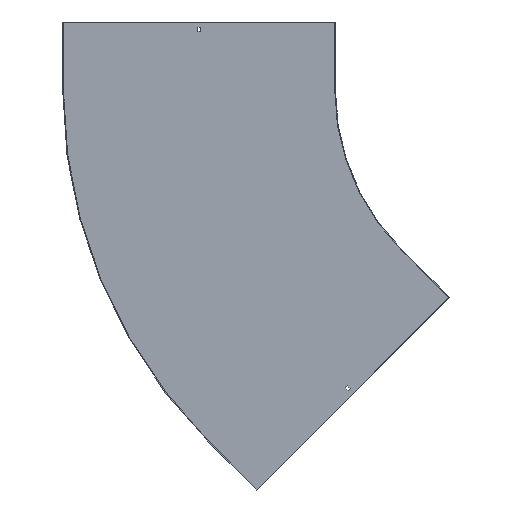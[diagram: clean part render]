
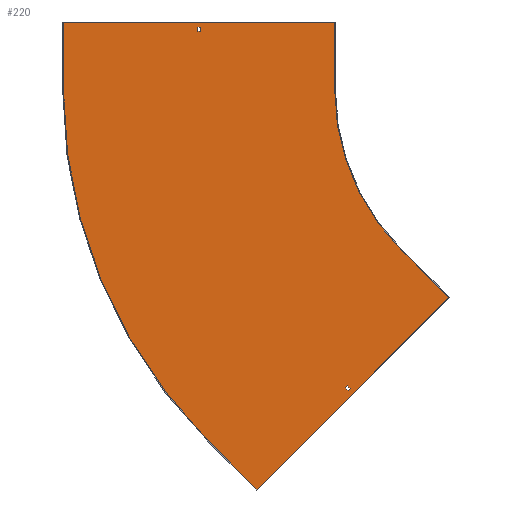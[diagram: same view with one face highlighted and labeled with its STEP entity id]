
A CAD part, front view. The second image highlights one B-rep face of the part: STEP entity #220.
In plain terms, the highlighted planar face has unit normal (0, -1, 0).
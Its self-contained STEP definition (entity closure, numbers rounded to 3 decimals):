
#9 = EDGE_LOOP ( 'NONE', ( #56, #224, #322, #115 ) ) ;
#17 = LINE ( 'NONE', #754, #211 ) ;
#23 = DIRECTION ( 'NONE',  ( 0.707, 0., -0.707 ) ) ;
#27 = DIRECTION ( 'NONE',  ( 0., 0., -1. ) ) ;
#40 = CARTESIAN_POINT ( 'NONE',  ( 0., -1.5, 129. ) ) ;
#43 = EDGE_LOOP ( 'NONE', ( #809, #674, #721, #840 ) ) ;
#50 = CARTESIAN_POINT ( 'NONE',  ( -470.403, -1.5, -665.564 ) ) ;
#56 = ORIENTED_EDGE ( 'NONE', *, *, #427, .F. ) ;
#61 = EDGE_CURVE ( 'NONE', #262, #748, #670, .T. ) ;
#62 = CARTESIAN_POINT ( 'NONE',  ( 0., -1.5, 0. ) ) ;
#66 = DIRECTION ( 'NONE',  ( -0.707, 0., -0.707 ) ) ;
#85 = VERTEX_POINT ( 'NONE', #416 ) ;
#95 = AXIS2_PLACEMENT_3D ( 'NONE', #171, #446, #690 ) ;
#109 = CARTESIAN_POINT ( 'NONE',  ( -777.817, -1.5, -777.817 ) ) ;
#115 = ORIENTED_EDGE ( 'NONE', *, *, #493, .F. ) ;
#128 = VECTOR ( 'NONE', #582, 1000. ) ;
#130 = CARTESIAN_POINT ( 'NONE',  ( -472.171, -1.5, -654.604 ) ) ;
#137 = EDGE_CURVE ( 'NONE', #494, #191, #703, .T. ) ;
#171 = CARTESIAN_POINT ( 'NONE',  ( 0., -1.5, 0. ) ) ;
#176 = CARTESIAN_POINT ( 'NONE',  ( 91.217, -1.5, -91.217 ) ) ;
#178 = EDGE_LOOP ( 'NONE', ( #683, #746, #474, #414, #386, #758, #500, #179 ) ) ;
#179 = ORIENTED_EDGE ( 'NONE', *, *, #788, .F. ) ;
#182 = VERTEX_POINT ( 'NONE', #730 ) ;
#185 = DIRECTION ( 'NONE',  ( 0., 0., -1. ) ) ;
#187 = VECTOR ( 'NONE', #573, 1000. ) ;
#191 = VERTEX_POINT ( 'NONE', #600 ) ;
#195 = CARTESIAN_POINT ( 'NONE',  ( -500., -1.5, 0. ) ) ;
#204 = PLANE ( 'NONE',  #598 ) ;
#210 = FACE_OUTER_BOUND ( 'NONE', #178, .T. ) ;
#211 = VECTOR ( 'NONE', #572, 1000. ) ;
#220 = ADVANCED_FACE ( 'NONE', ( #797, #210, #222 ), #204, .T. ) ;
#222 = FACE_BOUND ( 'NONE', #43, .T. ) ;
#224 = ORIENTED_EDGE ( 'NONE', *, *, #476, .F. ) ;
#229 = EDGE_CURVE ( 'NONE', #241, #182, #17, .T. ) ;
#241 = VERTEX_POINT ( 'NONE', #698 ) ;
#247 = LINE ( 'NONE', #761, #547 ) ;
#248 = VERTEX_POINT ( 'NONE', #384 ) ;
#253 = LINE ( 'NONE', #40, #187 ) ;
#262 = VERTEX_POINT ( 'NONE', #541 ) ;
#265 = DIRECTION ( 'NONE',  ( 0.707, 0., 0.707 ) ) ;
#275 = EDGE_CURVE ( 'NONE', #191, #658, #686, .T. ) ;
#290 = LINE ( 'NONE', #808, #828 ) ;
#297 = LINE ( 'NONE', #558, #793 ) ;
#318 = CARTESIAN_POINT ( 'NONE',  ( -803.25, -1.5, 129. ) ) ;
#322 = ORIENTED_EDGE ( 'NONE', *, *, #719, .F. ) ;
#323 = CARTESIAN_POINT ( 'NONE',  ( -500., -1.5, 150. ) ) ;
#326 = CARTESIAN_POINT ( 'NONE',  ( -803.25, -1.5, 0. ) ) ;
#333 = CARTESIAN_POINT ( 'NONE',  ( -796.75, -1.5, 0. ) ) ;
#335 = CARTESIAN_POINT ( 'NONE',  ( -796.75, -1.5, 129. ) ) ;
#336 = CIRCLE ( 'NONE', #803, 500. ) ;
#345 = VERTEX_POINT ( 'NONE', #335 ) ;
#369 = LINE ( 'NONE', #699, #514 ) ;
#378 = VECTOR ( 'NONE', #784, 1000. ) ;
#384 = CARTESIAN_POINT ( 'NONE',  ( -476.767, -1.5, -659.2 ) ) ;
#386 = ORIENTED_EDGE ( 'NONE', *, *, #648, .F. ) ;
#396 = VECTOR ( 'NONE', #477, 1000. ) ;
#401 = CARTESIAN_POINT ( 'NONE',  ( -465.807, -1.5, -660.968 ) ) ;
#407 = EDGE_CURVE ( 'NONE', #502, #241, #336, .T. ) ;
#409 = CARTESIAN_POINT ( 'NONE',  ( 0., -1.5, 0. ) ) ;
#414 = ORIENTED_EDGE ( 'NONE', *, *, #61, .F. ) ;
#416 = CARTESIAN_POINT ( 'NONE',  ( -1100., -1.5, 150. ) ) ;
#424 = CARTESIAN_POINT ( 'NONE',  ( 0., -1.5, 138. ) ) ;
#427 = EDGE_CURVE ( 'NONE', #497, #511, #247, .T. ) ;
#428 = CARTESIAN_POINT ( 'NONE',  ( -567.984, -1.5, -567.984 ) ) ;
#433 = EDGE_CURVE ( 'NONE', #345, #494, #253, .T. ) ;
#441 = DIRECTION ( 'NONE',  ( -0.707, 0., -0.707 ) ) ;
#444 = EDGE_CURVE ( 'NONE', #85, #509, #369, .T. ) ;
#446 = DIRECTION ( 'NONE',  ( 0., 1., 0. ) ) ;
#470 = DIRECTION ( 'NONE',  ( 0., -1., 0. ) ) ;
#472 = EDGE_CURVE ( 'NONE', #748, #611, #591, .T. ) ;
#474 = ORIENTED_EDGE ( 'NONE', *, *, #472, .F. ) ;
#476 = EDGE_CURVE ( 'NONE', #507, #497, #297, .T. ) ;
#477 = DIRECTION ( 'NONE',  ( -0.707, 0., 0.707 ) ) ;
#478 = LINE ( 'NONE', #727, #535 ) ;
#481 = CARTESIAN_POINT ( 'NONE',  ( -500., -1.5, 150. ) ) ;
#489 = LINE ( 'NONE', #428, #550 ) ;
#490 = DIRECTION ( 'NONE',  ( 0., 0., 1. ) ) ;
#493 = EDGE_CURVE ( 'NONE', #511, #248, #621, .T. ) ;
#494 = VERTEX_POINT ( 'NONE', #318 ) ;
#497 = VERTEX_POINT ( 'NONE', #401 ) ;
#500 = ORIENTED_EDGE ( 'NONE', *, *, #407, .F. ) ;
#502 = VERTEX_POINT ( 'NONE', #195 ) ;
#507 = VERTEX_POINT ( 'NONE', #50 ) ;
#508 = DIRECTION ( 'NONE',  ( 1., 0., 0. ) ) ;
#509 = VERTEX_POINT ( 'NONE', #323 ) ;
#511 = VERTEX_POINT ( 'NONE', #130 ) ;
#514 = VECTOR ( 'NONE', #508, 1000. ) ;
#521 = LINE ( 'NONE', #333, #378 ) ;
#526 = CARTESIAN_POINT ( 'NONE',  ( -1100., -1.5, 0. ) ) ;
#535 = VECTOR ( 'NONE', #66, 1000. ) ;
#541 = CARTESIAN_POINT ( 'NONE',  ( -671.751, -1.5, -883.883 ) ) ;
#547 = VECTOR ( 'NONE', #628, 1000. ) ;
#550 = VECTOR ( 'NONE', #23, 1000. ) ;
#558 = CARTESIAN_POINT ( 'NONE',  ( 97.581, -1.5, -97.581 ) ) ;
#569 = EDGE_CURVE ( 'NONE', #658, #345, #521, .T. ) ;
#572 = DIRECTION ( 'NONE',  ( 0.707, 0., -0.707 ) ) ;
#573 = DIRECTION ( 'NONE',  ( -1., 0., 0. ) ) ;
#581 = VECTOR ( 'NONE', #654, 1000. ) ;
#582 = DIRECTION ( 'NONE',  ( 0., 0., 1. ) ) ;
#591 = CIRCLE ( 'NONE', #95, 1100. ) ;
#598 = AXIS2_PLACEMENT_3D ( 'NONE', #409, #470, #185 ) ;
#600 = CARTESIAN_POINT ( 'NONE',  ( -803.25, -1.5, 138. ) ) ;
#607 = DIRECTION ( 'NONE',  ( 1., 0., 0. ) ) ;
#611 = VERTEX_POINT ( 'NONE', #526 ) ;
#621 = LINE ( 'NONE', #176, #695 ) ;
#628 = DIRECTION ( 'NONE',  ( -0.707, 0., 0.707 ) ) ;
#645 = DIRECTION ( 'NONE',  ( 0., -1., 0. ) ) ;
#648 = EDGE_CURVE ( 'NONE', #182, #262, #478, .T. ) ;
#654 = DIRECTION ( 'NONE',  ( 0., 0., -1. ) ) ;
#655 = CARTESIAN_POINT ( 'NONE',  ( -796.75, -1.5, 138. ) ) ;
#658 = VERTEX_POINT ( 'NONE', #655 ) ;
#670 = LINE ( 'NONE', #676, #396 ) ;
#674 = ORIENTED_EDGE ( 'NONE', *, *, #569, .T. ) ;
#676 = CARTESIAN_POINT ( 'NONE',  ( -671.751, -1.5, -883.883 ) ) ;
#683 = ORIENTED_EDGE ( 'NONE', *, *, #444, .F. ) ;
#686 = LINE ( 'NONE', #424, #735 ) ;
#690 = DIRECTION ( 'NONE',  ( 0., 0., -1. ) ) ;
#695 = VECTOR ( 'NONE', #441, 1000. ) ;
#698 = CARTESIAN_POINT ( 'NONE',  ( -353.553, -1.5, -353.553 ) ) ;
#699 = CARTESIAN_POINT ( 'NONE',  ( -1101.5, -1.5, 150. ) ) ;
#703 = LINE ( 'NONE', #326, #128 ) ;
#719 = EDGE_CURVE ( 'NONE', #248, #507, #489, .T. ) ;
#721 = ORIENTED_EDGE ( 'NONE', *, *, #433, .T. ) ;
#727 = CARTESIAN_POINT ( 'NONE',  ( -246.427, -1.5, -458.559 ) ) ;
#728 = LINE ( 'NONE', #481, #581 ) ;
#730 = CARTESIAN_POINT ( 'NONE',  ( -247.487, -1.5, -459.619 ) ) ;
#735 = VECTOR ( 'NONE', #607, 1000. ) ;
#746 = ORIENTED_EDGE ( 'NONE', *, *, #774, .F. ) ;
#748 = VERTEX_POINT ( 'NONE', #109 ) ;
#754 = CARTESIAN_POINT ( 'NONE',  ( -353.553, -1.5, -353.553 ) ) ;
#758 = ORIENTED_EDGE ( 'NONE', *, *, #229, .F. ) ;
#761 = CARTESIAN_POINT ( 'NONE',  ( -563.387, -1.5, -563.387 ) ) ;
#774 = EDGE_CURVE ( 'NONE', #611, #85, #290, .T. ) ;
#784 = DIRECTION ( 'NONE',  ( 0., 0., -1. ) ) ;
#788 = EDGE_CURVE ( 'NONE', #509, #502, #728, .T. ) ;
#793 = VECTOR ( 'NONE', #265, 1000. ) ;
#797 = FACE_BOUND ( 'NONE', #9, .T. ) ;
#803 = AXIS2_PLACEMENT_3D ( 'NONE', #62, #645, #27 ) ;
#808 = CARTESIAN_POINT ( 'NONE',  ( -1100., -1.5, 0. ) ) ;
#809 = ORIENTED_EDGE ( 'NONE', *, *, #275, .T. ) ;
#828 = VECTOR ( 'NONE', #490, 1000. ) ;
#840 = ORIENTED_EDGE ( 'NONE', *, *, #137, .T. ) ;
